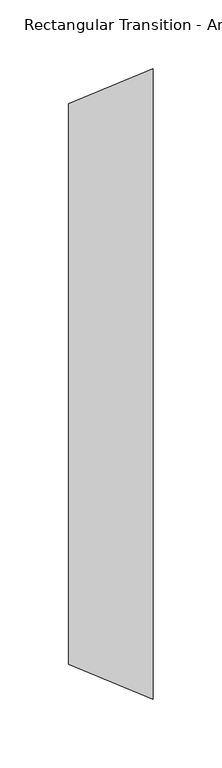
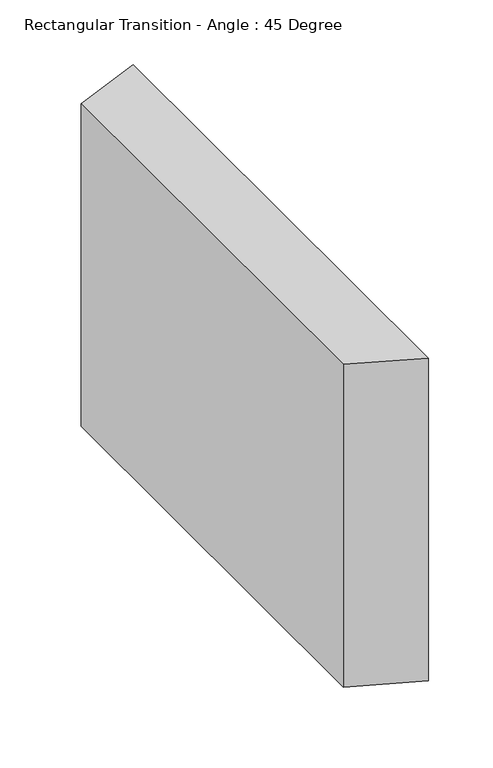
"""IFC4 building model written with IfcOpenShell, lengths in millimetres: duct fitting geometry, Rectangular Transition - Angle : 45 Degree."""

from ifc_helpers import new_model, si_unit, frame, origin, place, context, project, spatial, polyline, outline, extrude, source, transform, mapped, element, save


def rectangular_transition_angle_45_degree_acf68612(model_context):
    return source(origin(), model_context, "Body", "SweptSolid", [
        extrude(outline(polyline([(0.0, -203.2), (0.0, 203.2), (61.3210245, 228.6), (61.3210245, -228.6), (0.0, -203.2)])), frame((0.0, 0.0, -152.4), z_axis=(0.0, 0.0, 1.0), x_axis=(1.0, 0.0, 0.0)), (0.0, 0.0, 1.0), 304.8),
    ])


if __name__ == "__main__":
    model = new_model("IFC4")
    model_context = context("Model", 3, world=origin())
    ifc_project = project(units=[si_unit("LENGTHUNIT", "METRE", prefix="MILLI")], contexts=[model_context])
    site = spatial("IfcSite", under=ifc_project)
    building = spatial("IfcBuilding", under=site)
    placement = place(None, origin())
    rectangular_transition_angle_45_degree_shape = rectangular_transition_angle_45_degree_acf68612(model_context)
    element("IfcDuctFitting", 1, ObjectType="Rectangular Transition - Angle : 45 Degree", at=placement, inside=building, context=model_context, shape_type="MappedRepresentation", body=[
        mapped(rectangular_transition_angle_45_degree_shape, transform((0.0, 0.0, 0.0), x_axis=(1.0, 0.0, 0.0), y_axis=(0.0, 1.0, 0.0), z_axis=(0.0, 0.0, 1.0))),
    ])
    save(model, "model.ifc")
